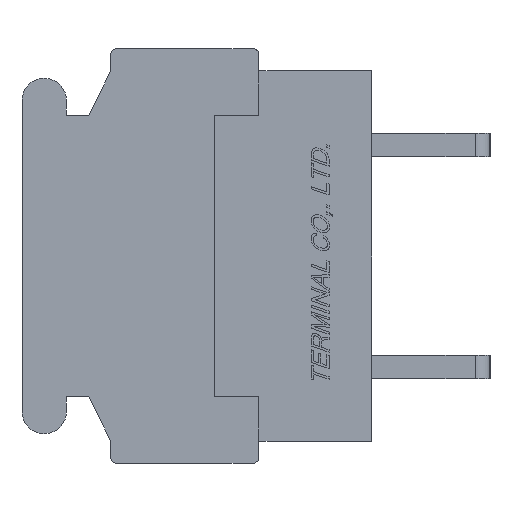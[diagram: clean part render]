
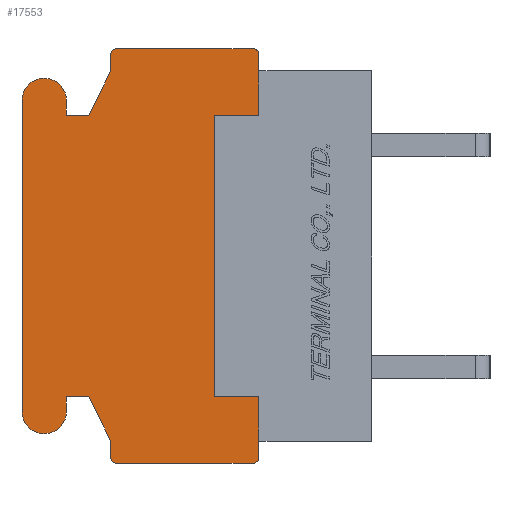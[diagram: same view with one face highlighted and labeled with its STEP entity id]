
A CAD part, left-side view. The second image highlights one B-rep face of the part: STEP entity #17553.
In plain terms, the highlighted planar face has unit normal (-1, 0, 0).
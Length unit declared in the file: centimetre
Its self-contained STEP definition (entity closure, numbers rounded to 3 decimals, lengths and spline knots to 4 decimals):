
#933=CIRCLE('',#29545,0.02);
#934=CIRCLE('',#29549,0.02);
#935=CIRCLE('',#29552,0.02);
#936=CIRCLE('',#29558,0.075);
#937=CIRCLE('',#29561,0.075);
#938=CIRCLE('',#29567,0.02);
#2337=VERTEX_POINT('',#26967);
#2338=VERTEX_POINT('',#26969);
#2339=VERTEX_POINT('',#26973);
#2340=VERTEX_POINT('',#26977);
#2341=VERTEX_POINT('',#26979);
#2342=VERTEX_POINT('',#26983);
#2343=VERTEX_POINT('',#26987);
#2344=VERTEX_POINT('',#26991);
#2345=VERTEX_POINT('',#26995);
#2346=VERTEX_POINT('',#26999);
#2347=VERTEX_POINT('',#27003);
#2348=VERTEX_POINT('',#27007);
#2349=VERTEX_POINT('',#27011);
#2350=VERTEX_POINT('',#27015);
#2351=VERTEX_POINT('',#27019);
#2352=VERTEX_POINT('',#27023);
#2353=VERTEX_POINT('',#27027);
#2354=VERTEX_POINT('',#27031);
#2355=VERTEX_POINT('',#27035);
#2356=VERTEX_POINT('',#27039);
#2357=VERTEX_POINT('',#27045);
#2358=VERTEX_POINT('',#27047);
#2359=VERTEX_POINT('',#27049);
#2360=VERTEX_POINT('',#27051);
#4235=VECTOR('',#21425,1.);
#4237=VECTOR('',#21428,1.);
#4241=VECTOR('',#21437,1.);
#4244=VECTOR('',#21445,1.);
#4246=VECTOR('',#21448,1.);
#4248=VECTOR('',#21451,1.);
#4250=VECTOR('',#21454,1.);
#4253=VECTOR('',#21462,1.);
#4256=VECTOR('',#21470,1.);
#4258=VECTOR('',#21473,1.);
#4260=VECTOR('',#21476,1.);
#4262=VECTOR('',#21479,1.);
#4264=VECTOR('',#21486,1.);
#4265=VECTOR('',#21488,1.);
#4266=VECTOR('',#21489,1.);
#4267=VECTOR('',#21490,1.);
#4268=VECTOR('',#21491,1.);
#4269=VECTOR('',#21492,1.);
#6211=LINE('',#26974,#4235);
#6213=LINE('',#26978,#4237);
#6217=LINE('',#26988,#4241);
#6220=LINE('',#26996,#4244);
#6222=LINE('',#27000,#4246);
#6224=LINE('',#27004,#4248);
#6226=LINE('',#27008,#4250);
#6229=LINE('',#27016,#4253);
#6232=LINE('',#27024,#4256);
#6234=LINE('',#27028,#4258);
#6236=LINE('',#27032,#4260);
#6238=LINE('',#27036,#4262);
#6240=LINE('',#27042,#4264);
#6241=LINE('',#27044,#4265);
#6242=LINE('',#27046,#4266);
#6243=LINE('',#27048,#4267);
#6244=LINE('',#27050,#4268);
#6245=LINE('',#27052,#4269);
#8755=EDGE_CURVE('',#2337,#2338,#933,.T.);
#8758=EDGE_CURVE('',#2339,#2337,#6211,.T.);
#8760=EDGE_CURVE('',#2340,#2341,#6213,.T.);
#8763=EDGE_CURVE('',#2342,#2340,#934,.T.);
#8765=EDGE_CURVE('',#2343,#2342,#6217,.T.);
#8767=EDGE_CURVE('',#2344,#2343,#935,.T.);
#8769=EDGE_CURVE('',#2345,#2344,#6220,.T.);
#8771=EDGE_CURVE('',#2346,#2345,#6222,.T.);
#8773=EDGE_CURVE('',#2347,#2346,#6224,.T.);
#8775=EDGE_CURVE('',#2348,#2347,#6226,.T.);
#8777=EDGE_CURVE('',#2349,#2348,#936,.T.);
#8779=EDGE_CURVE('',#2350,#2349,#6229,.T.);
#8781=EDGE_CURVE('',#2351,#2350,#937,.T.);
#8783=EDGE_CURVE('',#2352,#2351,#6232,.T.);
#8785=EDGE_CURVE('',#2353,#2352,#6234,.T.);
#8787=EDGE_CURVE('',#2354,#2353,#6236,.T.);
#8789=EDGE_CURVE('',#2355,#2354,#6238,.T.);
#8791=EDGE_CURVE('',#2356,#2355,#938,.T.);
#8792=EDGE_CURVE('',#2338,#2356,#6240,.T.);
#8793=EDGE_CURVE('',#2357,#2341,#6241,.T.);
#8794=EDGE_CURVE('',#2339,#2358,#6242,.T.);
#8795=EDGE_CURVE('',#2358,#2359,#6243,.T.);
#8796=EDGE_CURVE('',#2359,#2360,#6244,.T.);
#8797=EDGE_CURVE('',#2360,#2357,#6245,.T.);
#13509=ORIENTED_EDGE('',*,*,#8793,.T.);
#13510=ORIENTED_EDGE('',*,*,#8760,.F.);
#13511=ORIENTED_EDGE('',*,*,#8763,.F.);
#13512=ORIENTED_EDGE('',*,*,#8765,.F.);
#13513=ORIENTED_EDGE('',*,*,#8767,.F.);
#13514=ORIENTED_EDGE('',*,*,#8769,.F.);
#13515=ORIENTED_EDGE('',*,*,#8771,.F.);
#13516=ORIENTED_EDGE('',*,*,#8773,.F.);
#13517=ORIENTED_EDGE('',*,*,#8775,.F.);
#13518=ORIENTED_EDGE('',*,*,#8777,.F.);
#13519=ORIENTED_EDGE('',*,*,#8779,.F.);
#13520=ORIENTED_EDGE('',*,*,#8781,.F.);
#13521=ORIENTED_EDGE('',*,*,#8783,.F.);
#13522=ORIENTED_EDGE('',*,*,#8785,.F.);
#13523=ORIENTED_EDGE('',*,*,#8787,.F.);
#13524=ORIENTED_EDGE('',*,*,#8789,.F.);
#13525=ORIENTED_EDGE('',*,*,#8791,.F.);
#13526=ORIENTED_EDGE('',*,*,#8792,.F.);
#13527=ORIENTED_EDGE('',*,*,#8755,.F.);
#13528=ORIENTED_EDGE('',*,*,#8758,.F.);
#13529=ORIENTED_EDGE('',*,*,#8794,.T.);
#13530=ORIENTED_EDGE('',*,*,#8795,.T.);
#13531=ORIENTED_EDGE('',*,*,#8796,.T.);
#13532=ORIENTED_EDGE('',*,*,#8797,.T.);
#15464=EDGE_LOOP('',(#13509,#13510,#13511,#13512,#13513,#13514,#13515,#13516,
#13517,#13518,#13519,#13520,#13521,#13522,#13523,#13524,#13525,#13526,#13527,
#13528,#13529,#13530,#13531,#13532));
#16536=FACE_BOUND('',#15464,.T.);
#17553=ADVANCED_FACE('',(#16536),#18303,.F.);
#18303=PLANE('',#29569);
#21420=DIRECTION('',(1.,0.,0.));
#21421=DIRECTION('',(0.,0.,-0.02));
#21425=DIRECTION('',(0.,0.,-1.));
#21428=DIRECTION('',(0.,0.,-1.));
#21433=DIRECTION('',(1.,0.,0.));
#21434=DIRECTION('',(0.,0.,-0.02));
#21437=DIRECTION('',(0.,-1.,0.));
#21441=DIRECTION('',(1.,0.,0.));
#21442=DIRECTION('',(0.,0.,-0.02));
#21445=DIRECTION('',(0.,0.,1.));
#21448=DIRECTION('',(0.,-0.447,0.894));
#21451=DIRECTION('',(0.,-1.,0.));
#21454=DIRECTION('',(0.,0.,-1.));
#21458=DIRECTION('',(1.,0.,0.));
#21459=DIRECTION('',(0.,0.,-0.075));
#21462=DIRECTION('',(0.,0.,1.));
#21466=DIRECTION('',(1.,0.,0.));
#21467=DIRECTION('',(0.,0.,-0.075));
#21470=DIRECTION('',(0.,0.,-1.));
#21473=DIRECTION('',(0.,1.,0.));
#21476=DIRECTION('',(0.,0.447,0.894));
#21479=DIRECTION('',(0.,0.,1.));
#21483=DIRECTION('',(1.,0.,0.));
#21484=DIRECTION('',(0.,0.,-0.02));
#21486=DIRECTION('',(0.,1.,0.));
#21487=DIRECTION('',(1.,0.,0.));
#21488=DIRECTION('',(0.,0.,1.));
#21489=DIRECTION('',(0.,0.,1.));
#21490=DIRECTION('',(0.,1.,0.));
#21491=DIRECTION('',(0.,0.,1.));
#21492=DIRECTION('',(0.,-1.,0.));
#26967=CARTESIAN_POINT('',(-0.762,0.38,-0.68));
#26968=CARTESIAN_POINT('',(-0.762,0.4,-0.68));
#26969=CARTESIAN_POINT('',(-0.762,0.4,-0.7));
#26973=CARTESIAN_POINT('',(-0.762,0.38,-0.625));
#26974=CARTESIAN_POINT('',(-0.762,0.38,-0.625));
#26977=CARTESIAN_POINT('',(-0.762,0.38,0.68));
#26978=CARTESIAN_POINT('',(-0.762,0.38,0.68));
#26979=CARTESIAN_POINT('',(-0.762,0.38,0.625));
#26983=CARTESIAN_POINT('',(-0.762,0.4,0.7));
#26984=CARTESIAN_POINT('',(-0.762,0.4,0.68));
#26987=CARTESIAN_POINT('',(-0.762,0.86,0.7));
#26988=CARTESIAN_POINT('',(-0.762,0.86,0.7));
#26991=CARTESIAN_POINT('',(-0.762,0.88,0.68));
#26992=CARTESIAN_POINT('',(-0.762,0.86,0.68));
#26995=CARTESIAN_POINT('',(-0.762,0.88,0.625));
#26996=CARTESIAN_POINT('',(-0.762,0.88,0.625));
#26999=CARTESIAN_POINT('',(-0.762,0.955,0.475));
#27000=CARTESIAN_POINT('',(-0.762,0.955,0.475));
#27003=CARTESIAN_POINT('',(-0.762,1.03,0.475));
#27004=CARTESIAN_POINT('',(-0.762,1.03,0.475));
#27007=CARTESIAN_POINT('',(-0.762,1.03,0.525));
#27008=CARTESIAN_POINT('',(-0.762,1.03,0.525));
#27011=CARTESIAN_POINT('',(-0.762,1.18,0.525));
#27012=CARTESIAN_POINT('',(-0.762,1.105,0.525));
#27015=CARTESIAN_POINT('',(-0.762,1.18,-0.525));
#27016=CARTESIAN_POINT('',(-0.762,1.18,-0.525));
#27019=CARTESIAN_POINT('',(-0.762,1.03,-0.525));
#27020=CARTESIAN_POINT('',(-0.762,1.105,-0.525));
#27023=CARTESIAN_POINT('',(-0.762,1.03,-0.475));
#27024=CARTESIAN_POINT('',(-0.762,1.03,-0.475));
#27027=CARTESIAN_POINT('',(-0.762,0.955,-0.475));
#27028=CARTESIAN_POINT('',(-0.762,0.955,-0.475));
#27031=CARTESIAN_POINT('',(-0.762,0.88,-0.625));
#27032=CARTESIAN_POINT('',(-0.762,0.88,-0.625));
#27035=CARTESIAN_POINT('',(-0.762,0.88,-0.68));
#27036=CARTESIAN_POINT('',(-0.762,0.88,-0.68));
#27039=CARTESIAN_POINT('',(-0.762,0.86,-0.7));
#27040=CARTESIAN_POINT('',(-0.762,0.86,-0.68));
#27042=CARTESIAN_POINT('',(-0.762,0.4,-0.7));
#27043=CARTESIAN_POINT('',(-0.762,0.6059,0.));
#27044=CARTESIAN_POINT('',(-0.762,0.38,0.475));
#27045=CARTESIAN_POINT('',(-0.762,0.38,0.475));
#27046=CARTESIAN_POINT('',(-0.762,0.38,-0.625));
#27047=CARTESIAN_POINT('',(-0.762,0.38,-0.475));
#27048=CARTESIAN_POINT('',(-0.762,0.38,-0.475));
#27049=CARTESIAN_POINT('',(-0.762,0.53,-0.475));
#27050=CARTESIAN_POINT('',(-0.762,0.53,-0.475));
#27051=CARTESIAN_POINT('',(-0.762,0.53,0.475));
#27052=CARTESIAN_POINT('',(-0.762,0.53,0.475));
#29545=AXIS2_PLACEMENT_3D('',#26968,#21420,#21421);
#29549=AXIS2_PLACEMENT_3D('',#26984,#21433,#21434);
#29552=AXIS2_PLACEMENT_3D('',#26992,#21441,#21442);
#29558=AXIS2_PLACEMENT_3D('',#27012,#21458,#21459);
#29561=AXIS2_PLACEMENT_3D('',#27020,#21466,#21467);
#29567=AXIS2_PLACEMENT_3D('',#27040,#21483,#21484);
#29569=AXIS2_PLACEMENT_3D('',#27043,#21487,$);
